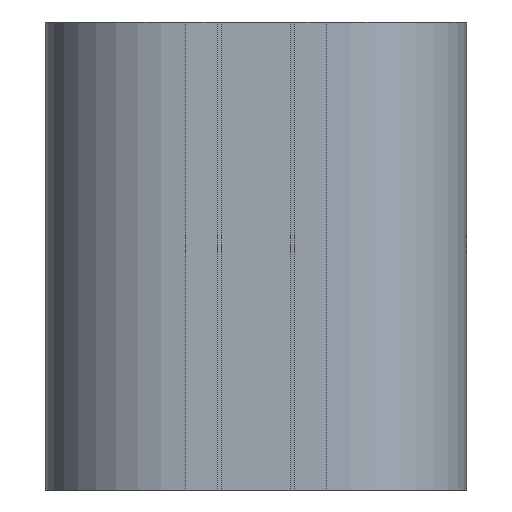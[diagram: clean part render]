
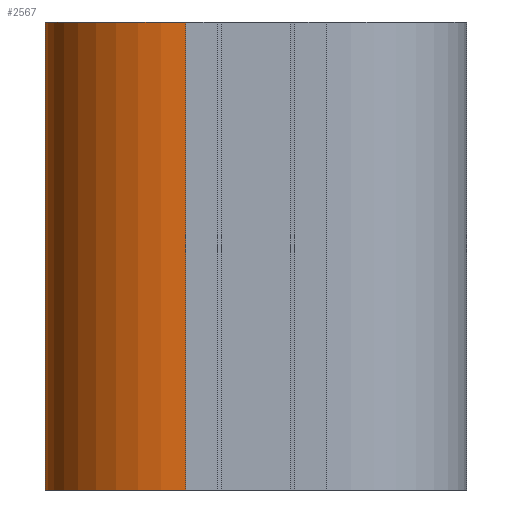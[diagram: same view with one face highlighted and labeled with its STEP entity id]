
A CAD part, left-side view. The second image highlights one B-rep face of the part: STEP entity #2567.
In plain terms, the highlighted cylindrical face has radius 15 mm (diameter 30 mm), a partial arc.
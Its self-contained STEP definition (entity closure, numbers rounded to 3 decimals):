
#24 = ORIENTED_EDGE ( 'NONE', *, *, #2446, .F. ) ;
#36 = DIRECTION ( 'NONE',  ( 0., 0., 1. ) ) ;
#68 = VECTOR ( 'NONE', #2282, 1000. ) ;
#462 = CARTESIAN_POINT ( 'NONE',  ( -30.6, 7.5, 50. ) ) ;
#532 = VERTEX_POINT ( 'NONE', #2116 ) ;
#731 = AXIS2_PLACEMENT_3D ( 'NONE', #462, #1471, #1113 ) ;
#768 = VERTEX_POINT ( 'NONE', #2260 ) ;
#835 = CIRCLE ( 'NONE', #2167, 15. ) ;
#867 = CARTESIAN_POINT ( 'NONE',  ( -30.6, 22.5, 50. ) ) ;
#952 = CIRCLE ( 'NONE', #731, 15. ) ;
#1113 = DIRECTION ( 'NONE',  ( 1., 0., 0. ) ) ;
#1413 = LINE ( 'NONE', #1740, #4012 ) ;
#1436 = EDGE_CURVE ( 'NONE', #3439, #2555, #1830, .T. ) ;
#1471 = DIRECTION ( 'NONE',  ( 0., 0., 1. ) ) ;
#1740 = CARTESIAN_POINT ( 'NONE',  ( -45.6, 7.5, 50. ) ) ;
#1791 = AXIS2_PLACEMENT_3D ( 'NONE', #3226, #2526, #3891 ) ;
#1830 = LINE ( 'NONE', #867, #68 ) ;
#1964 = EDGE_CURVE ( 'NONE', #2555, #532, #835, .T. ) ;
#2030 = DIRECTION ( 'NONE',  ( 0., 0., -1. ) ) ;
#2085 = DIRECTION ( 'NONE',  ( 1., 0., 0. ) ) ;
#2116 = CARTESIAN_POINT ( 'NONE',  ( -45.6, 7.5, 0. ) ) ;
#2167 = AXIS2_PLACEMENT_3D ( 'NONE', #4166, #36, #2085 ) ;
#2170 = EDGE_CURVE ( 'NONE', #768, #532, #1413, .T. ) ;
#2174 = CARTESIAN_POINT ( 'NONE',  ( -30.6, 22.5, 0. ) ) ;
#2260 = CARTESIAN_POINT ( 'NONE',  ( -45.6, 7.5, 50. ) ) ;
#2282 = DIRECTION ( 'NONE',  ( 0., 0., -1. ) ) ;
#2365 = ORIENTED_EDGE ( 'NONE', *, *, #1964, .T. ) ;
#2446 = EDGE_CURVE ( 'NONE', #3439, #768, #952, .T. ) ;
#2526 = DIRECTION ( 'NONE',  ( 0., 0., -1. ) ) ;
#2555 = VERTEX_POINT ( 'NONE', #2174 ) ;
#2567 = ADVANCED_FACE ( 'NONE', ( #4351 ), #2754, .T. ) ;
#2754 = CYLINDRICAL_SURFACE ( 'NONE', #1791, 15. ) ;
#2782 = EDGE_LOOP ( 'NONE', ( #2365, #4307, #24, #3261 ) ) ;
#3226 = CARTESIAN_POINT ( 'NONE',  ( -30.6, 7.5, 50. ) ) ;
#3261 = ORIENTED_EDGE ( 'NONE', *, *, #1436, .T. ) ;
#3439 = VERTEX_POINT ( 'NONE', #3541 ) ;
#3541 = CARTESIAN_POINT ( 'NONE',  ( -30.6, 22.5, 50. ) ) ;
#3891 = DIRECTION ( 'NONE',  ( -1., 0., 0. ) ) ;
#4012 = VECTOR ( 'NONE', #2030, 1000. ) ;
#4166 = CARTESIAN_POINT ( 'NONE',  ( -30.6, 7.5, 0. ) ) ;
#4307 = ORIENTED_EDGE ( 'NONE', *, *, #2170, .F. ) ;
#4351 = FACE_OUTER_BOUND ( 'NONE', #2782, .T. ) ;
